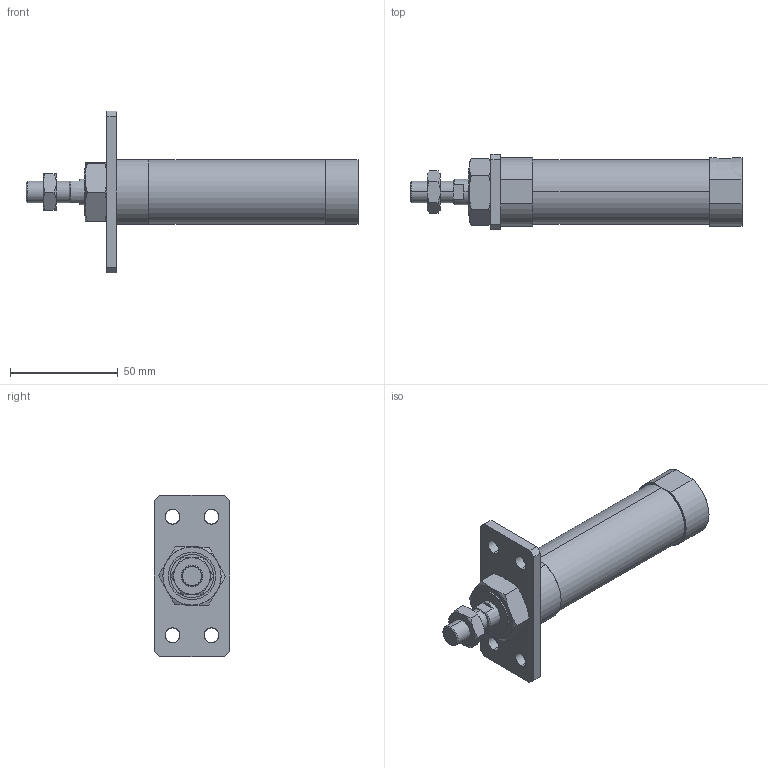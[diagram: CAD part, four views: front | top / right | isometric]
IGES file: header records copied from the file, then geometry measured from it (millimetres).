
Start section: SolidWorks IGES file using analytic representation for surfaces
Global section: file name: C:\Users\Toshiba\Desktop\JGND1-25-25-A.IGS; native system: SolidWorks 2014; preprocessor: SolidWorks 2014; author: Toshiba; date: 160804.101544; units: millimetre
Bounding box: 154 x 35 x 75 mm (x, y, z)
Surface area: 23799.2 mm2 (no closed solid volume)
Topology: 0 solids, 0 shells, 105 faces, 1918 edges, 1916 vertices
Faces by surface type: bspline 69, revolution 36
